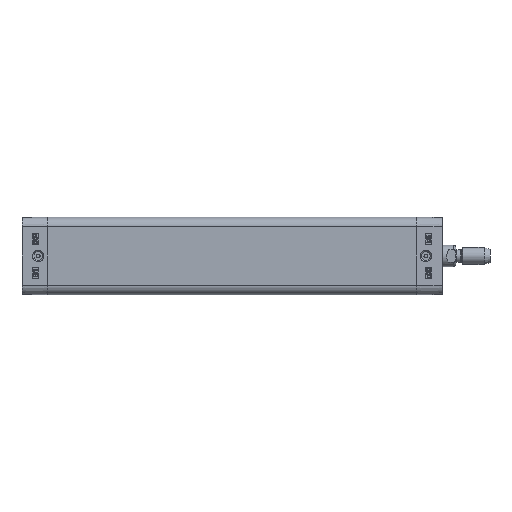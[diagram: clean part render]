
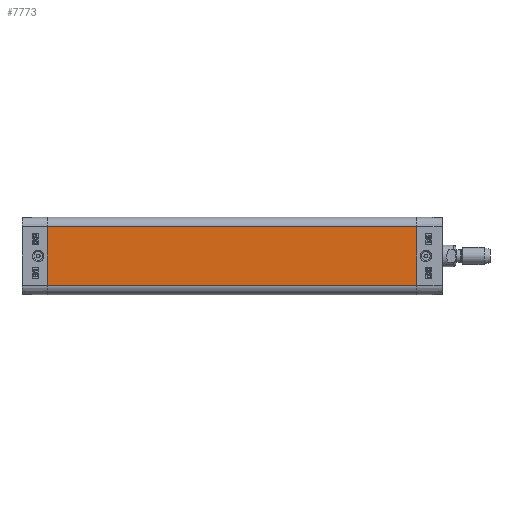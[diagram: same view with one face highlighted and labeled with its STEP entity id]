
A CAD part, left-side view. The second image highlights one B-rep face of the part: STEP entity #7773.
In plain terms, the highlighted planar face has unit normal (-1, 0, 0).
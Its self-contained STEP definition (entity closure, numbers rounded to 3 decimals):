
#6294=CARTESIAN_POINT('',(-18.15,-173.5,13.65));
#6295=VERTEX_POINT('',#6294);
#6302=CARTESIAN_POINT('',(-18.15,-173.5,-13.65));
#6303=VERTEX_POINT('',#6302);
#6304=CARTESIAN_POINT('',(-18.15,-173.5,-13.65));
#6305=DIRECTION('',(0.0,0.0,1.0));
#6306=VECTOR('',#6305,27.3);
#6307=LINE('',#6304,#6306);
#6308=EDGE_CURVE('',#6303,#6295,#6307,.T.);
#7731=CARTESIAN_POINT('',(-18.15,0.0,-13.65));
#7732=VERTEX_POINT('',#7731);
#7733=CARTESIAN_POINT('',(-18.15,0.0,-13.65));
#7734=DIRECTION('',(0.0,-1.0,0.0));
#7735=VECTOR('',#7734,173.5);
#7736=LINE('',#7733,#7735);
#7737=EDGE_CURVE('',#7732,#6303,#7736,.T.);
#7750=CARTESIAN_POINT('',(-18.15,0.0,-13.65));
#7751=DIRECTION('',(-1.0,0.0,0.0));
#7752=DIRECTION('',(0.0,0.0,1.0));
#7753=AXIS2_PLACEMENT_3D('',#7750,#7751,#7752);
#7754=PLANE('',#7753);
#7755=ORIENTED_EDGE('',*,*,#6308,.T.);
#7756=CARTESIAN_POINT('',(-18.15,0.0,13.65));
#7757=VERTEX_POINT('',#7756);
#7758=CARTESIAN_POINT('',(-18.15,0.0,13.65));
#7759=DIRECTION('',(0.0,-1.0,0.0));
#7760=VECTOR('',#7759,173.5);
#7761=LINE('',#7758,#7760);
#7762=EDGE_CURVE('',#7757,#6295,#7761,.T.);
#7763=ORIENTED_EDGE('',*,*,#7762,.F.);
#7764=CARTESIAN_POINT('',(-18.15,0.0,-13.65));
#7765=DIRECTION('',(0.0,0.0,1.0));
#7766=VECTOR('',#7765,27.3);
#7767=LINE('',#7764,#7766);
#7768=EDGE_CURVE('',#7732,#7757,#7767,.T.);
#7769=ORIENTED_EDGE('',*,*,#7768,.F.);
#7770=ORIENTED_EDGE('',*,*,#7737,.T.);
#7771=EDGE_LOOP('',(#7755,#7763,#7769,#7770));
#7772=FACE_OUTER_BOUND('',#7771,.T.);
#7773=ADVANCED_FACE('',(#7772),#7754,.T.);
